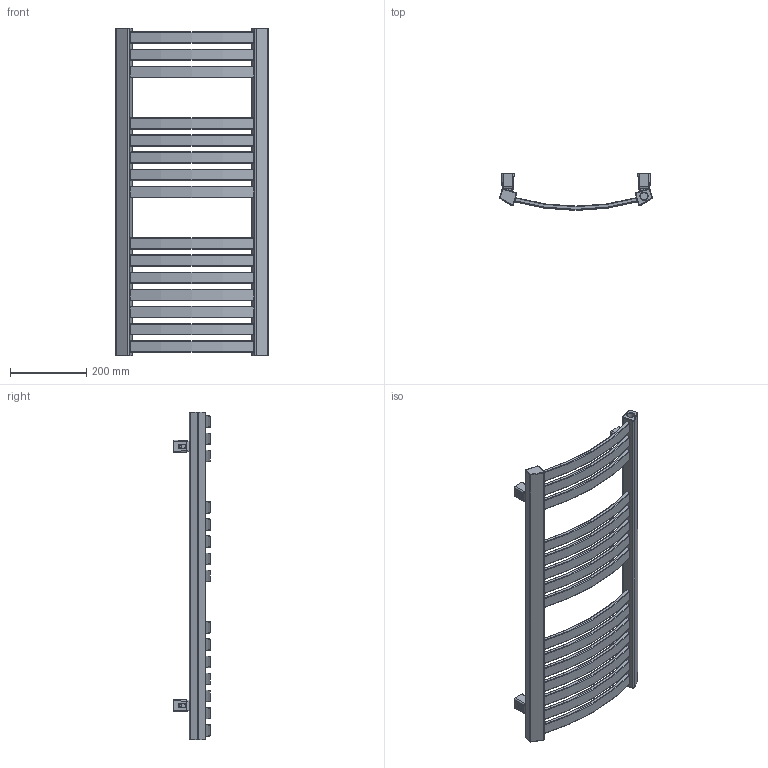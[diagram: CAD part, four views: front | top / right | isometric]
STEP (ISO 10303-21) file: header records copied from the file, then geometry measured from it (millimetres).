
FILE_DESCRIPTION((''),'2;1');
FILE_NAME('Z:\R\G\P\RGPH02 - Grzejnik Dexter\Work\Inventor\Marketing\Autocad\DE-860-400 SX.stp','2012-07-12T13:31:46',('KurKa'),(''),'Autodesk Inventor 2012','Autodesk Inventor 2012','');
FILE_SCHEMA(('AUTOMOTIVE_DESIGN { 1 0 10303 214 1 1 1 1 }'));
Length unit declared in the file: millimetre
Products named in the file (10): DE-860-400 SX; DE-860-400-1-5-8; MKT42-00-B v0.2; MKT42-01 v0; MKT42-02-B v0; PN_M-82019; M6; NK-S10-M5-3-R; PN-87/M-82302 M5 x 22; PN-87/M-82302  M5 x 12; MKT42-03 v0.2
Assembly tree (12 placements, depth 3):
  DE-860-400 SX
    DE-860-400-1-5-8
    MKT42-00-B v0.2  x4
      MKT42-01 v0
      MKT42-02-B v0
      PN_M-82019; M6
      NK-S10-M5-3-R
      PN-87/M-82302 M5 x 22
      PN-87/M-82302  M5 x 12
      MKT42-03 v0.2
Bounding box: 399.87 x 95.38 x 860 mm (x, y, z)
Volume: 3658183.2 mm3; surface area: 696757.4 mm2
Topology: 29 solids, 29 shells, 1557 faces, 4231 edges, 2753 vertices
Faces by surface type: plane 1013, cylinder 357, torus 103, cone 44, bspline 40
Full cylindrical faces by diameter (mm): 4.134 x4, 5 x8, 5.5 x12, 6.3 x4, 8.5 x8, 10 x4, 18 x4, 18.631 x3
Entity records: 17224 total; most frequent: CARTESIAN_POINT 3431, DIRECTION 2912, ORIENTED_EDGE 2784, EDGE_CURVE 1392, AXIS2_PLACEMENT_3D 1041, VERTEX_POINT 918, VECTOR 830, LINE 830
